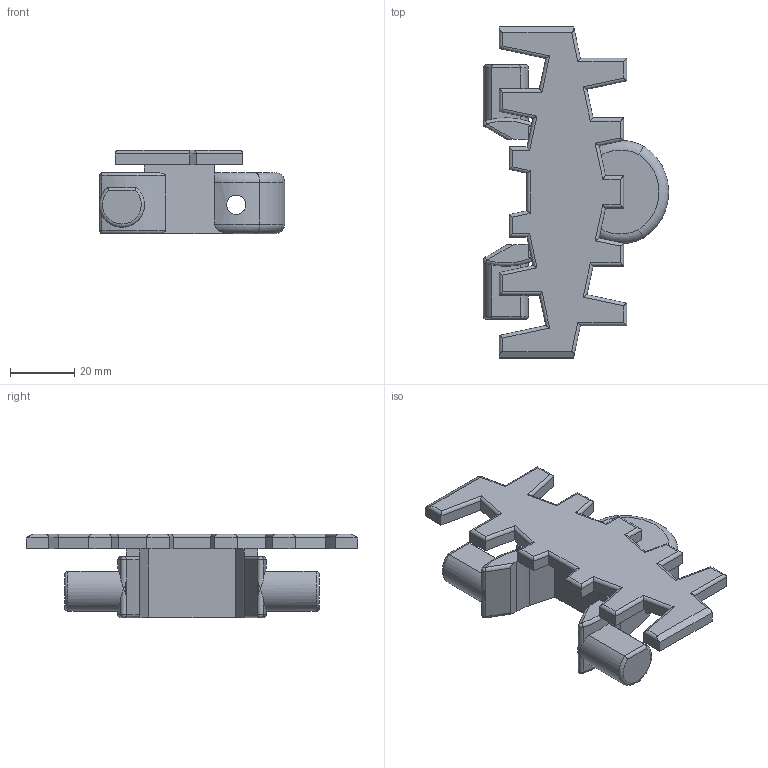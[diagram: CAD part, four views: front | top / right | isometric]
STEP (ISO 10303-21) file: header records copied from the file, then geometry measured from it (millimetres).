
FILE_DESCRIPTION(/* description */ ('Abriebfestes Kettenglied (Kevlar)'),/* implementation_level */ '2;1');
FILE_NAME(/* name */ 'T:\vdz0\Step Daten Website\modulflex FH-System\Kettenglieder\FHTL 103_52891.stp',/* time_stamp */ '2024-09-04T12:08:08+02:00',/* author */ ('lzb0'),/* organization */ ('modular automation GmbH'),/* preprocessor_version */ 'ST-DEVELOPER v18.1',/* originating_system */ 'Autodesk Inventor 2021',/* authorisation */ '');
FILE_SCHEMA (('AUTOMOTIVE_DESIGN { 1 0 10303 214 3 1 1 }'));
Length unit declared in the file: millimetre
Products named in the file (1): FHTL 103 C
Bounding box: 57.5 x 103 x 25.9 mm (x, y, z)
Volume: 39772 mm3; surface area: 14838.5 mm2
Topology: 1 solids, 1 shells, 151 faces, 384 edges, 231 vertices
Faces by surface type: plane 73, cylinder 62, torus 12, sphere 4
Full cylindrical faces by diameter (mm): 6 x1
Entity records: 4755 total; most frequent: CARTESIAN_POINT 1105, ORIENTED_EDGE 760, DIRECTION 745, EDGE_CURVE 380, LINE 257, VECTOR 257, AXIS2_PLACEMENT_3D 244, VERTEX_POINT 231
